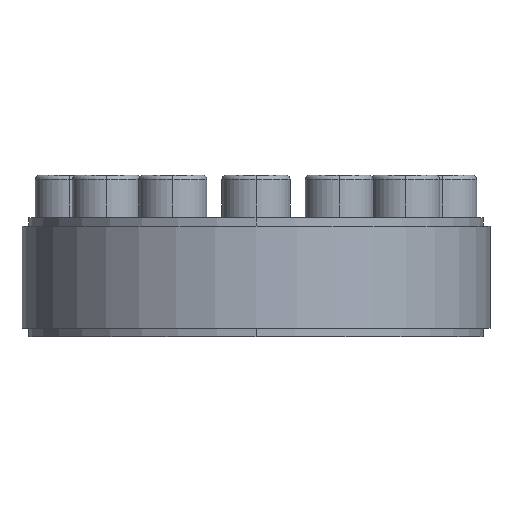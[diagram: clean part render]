
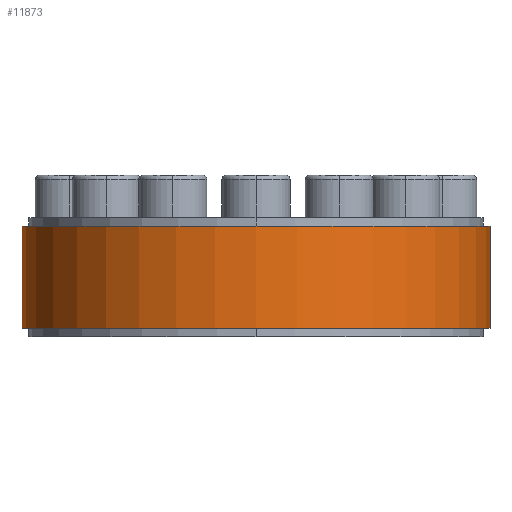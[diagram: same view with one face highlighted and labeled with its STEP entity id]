
A CAD part, left-side view. The second image highlights one B-rep face of the part: STEP entity #11873.
In plain terms, the highlighted cylindrical face has radius 55 mm (diameter 110 mm), a partial arc.
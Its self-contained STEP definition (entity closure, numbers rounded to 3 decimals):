
#11669=DIRECTION('',(0.,0.,1.));
#11670=VECTOR('',#11669,24.);
#11671=CARTESIAN_POINT('',(0.,55.,-12.));
#11672=LINE('',#11671,#11670);
#11676=DIRECTION('',(0.,0.,1.));
#11677=VECTOR('',#11676,24.);
#11678=CARTESIAN_POINT('',(0.,-55.,-12.));
#11679=LINE('',#11678,#11677);
#11683=CARTESIAN_POINT('',(0.,0.,-12.));
#11684=DIRECTION('',(0.,0.,1.));
#11685=DIRECTION('',(0.,1.,0.));
#11686=AXIS2_PLACEMENT_3D('',#11683,#11684,#11685);
#11691=CARTESIAN_POINT('',(0.,0.,12.));
#11692=DIRECTION('',(0.,0.,1.));
#11693=DIRECTION('',(0.,1.,0.));
#11694=AXIS2_PLACEMENT_3D('',#11691,#11692,#11693);
#11775=CARTESIAN_POINT('',(0.,55.,-12.));
#11776=CARTESIAN_POINT('',(0.,55.,12.));
#11777=VERTEX_POINT('',#11775);
#11778=VERTEX_POINT('',#11776);
#11779=CARTESIAN_POINT('',(0.,-55.,-12.));
#11780=CARTESIAN_POINT('',(0.,-55.,12.));
#11781=VERTEX_POINT('',#11779);
#11782=VERTEX_POINT('',#11780);
#11861=CARTESIAN_POINT('',(0.,0.,13.2));
#11862=DIRECTION('',(0.,0.,-1.));
#11863=DIRECTION('',(0.,-1.,0.));
#11864=AXIS2_PLACEMENT_3D('',#11861,#11862,#11863);
#11865=CYLINDRICAL_SURFACE('',#11864,55.);
#11866=ORIENTED_EDGE('',*,*,#11844,.T.);
#11868=ORIENTED_EDGE('',*,*,#11867,.T.);
#11869=ORIENTED_EDGE('',*,*,#11847,.F.);
#11870=ORIENTED_EDGE('',*,*,#11822,.F.);
#11871=EDGE_LOOP('',(#11866,#11868,#11869,#11870));
#11872=FACE_OUTER_BOUND('',#11871,.F.);
#11873=ADVANCED_FACE('',(#11872),#11865,.T.);
#11687=CIRCLE('',#11686,55.);
#11695=CIRCLE('',#11694,55.);
#11822=EDGE_CURVE('',#11777,#11781,#11687,.T.);
#11844=EDGE_CURVE('',#11777,#11778,#11672,.T.);
#11847=EDGE_CURVE('',#11781,#11782,#11679,.T.);
#11867=EDGE_CURVE('',#11778,#11782,#11695,.T.);
